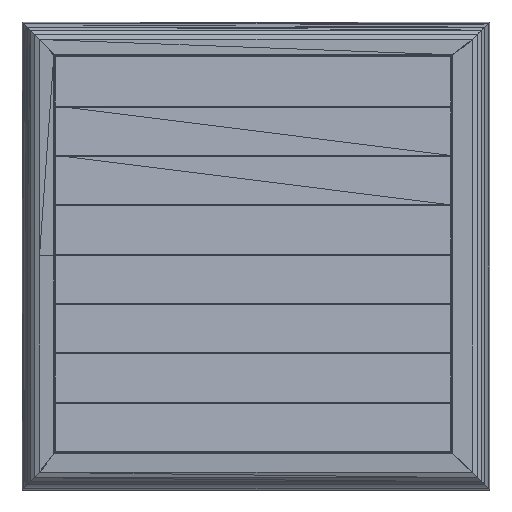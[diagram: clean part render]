
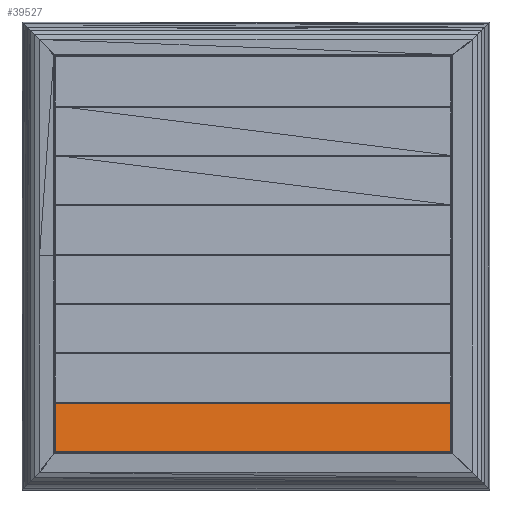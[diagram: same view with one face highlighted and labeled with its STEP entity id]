
A CAD part, top view. The second image highlights one B-rep face of the part: STEP entity #39527.
In plain terms, the highlighted planar face has unit normal (0, 0.083, 0.997).
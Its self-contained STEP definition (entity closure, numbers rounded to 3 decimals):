
#39025 = VERTEX_POINT('',#39026);
#39026 = CARTESIAN_POINT('',(164.92,33.791,
    44.079));
#39107 = EDGE_CURVE('',#39108,#39025,#39110,.T.);
#39108 = VERTEX_POINT('',#39109);
#39109 = CARTESIAN_POINT('',(164.92,14.757,
    45.662));
#39110 = LINE('',#39111,#39112);
#39111 = CARTESIAN_POINT('',(164.92,14.757,
    45.662));
#39112 = VECTOR('',#39113,1.);
#39113 = DIRECTION('',(0.,0.997,-0.083));
#39346 = VERTEX_POINT('',#39347);
#39347 = CARTESIAN_POINT('',(12.882,14.757,
    45.662));
#39376 = EDGE_CURVE('',#39377,#39346,#39379,.T.);
#39377 = VERTEX_POINT('',#39378);
#39378 = CARTESIAN_POINT('',(12.882,33.791,
    44.079));
#39379 = LINE('',#39380,#39381);
#39380 = CARTESIAN_POINT('',(12.882,33.791,
    44.079));
#39381 = VECTOR('',#39382,1.);
#39382 = DIRECTION('',(0.,-0.997,0.083));
#39443 = EDGE_CURVE('',#39025,#39377,#39444,.T.);
#39444 = LINE('',#39445,#39446);
#39445 = CARTESIAN_POINT('',(164.92,33.791,
    44.079));
#39446 = VECTOR('',#39447,1.);
#39447 = DIRECTION('',(-1.,0.,0.));
#39527 = ADVANCED_FACE('',(#39528),#39539,.T.);
#39528 = FACE_BOUND('',#39529,.T.);
#39529 = EDGE_LOOP('',(#39530,#39531,#39537,#39538));
#39530 = ORIENTED_EDGE('',*,*,#39376,.T.);
#39531 = ORIENTED_EDGE('',*,*,#39532,.T.);
#39532 = EDGE_CURVE('',#39346,#39108,#39533,.T.);
#39533 = LINE('',#39534,#39535);
#39534 = CARTESIAN_POINT('',(12.882,14.757,
    45.662));
#39535 = VECTOR('',#39536,1.);
#39536 = DIRECTION('',(1.,0.,0.));
#39537 = ORIENTED_EDGE('',*,*,#39107,.T.);
#39538 = ORIENTED_EDGE('',*,*,#39443,.T.);
#39539 = PLANE('',#39540);
#39540 = AXIS2_PLACEMENT_3D('',#39541,#39542,#39543);
#39541 = CARTESIAN_POINT('',(88.901,24.274,
    44.87));
#39542 = DIRECTION('',(0.,0.083,0.997));
#39543 = DIRECTION('',(0.,0.997,-0.083));
